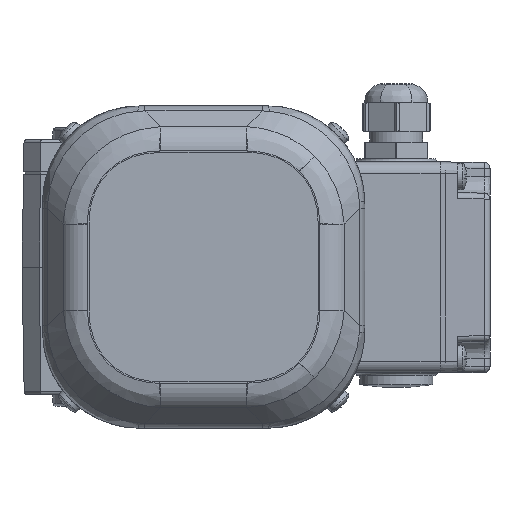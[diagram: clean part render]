
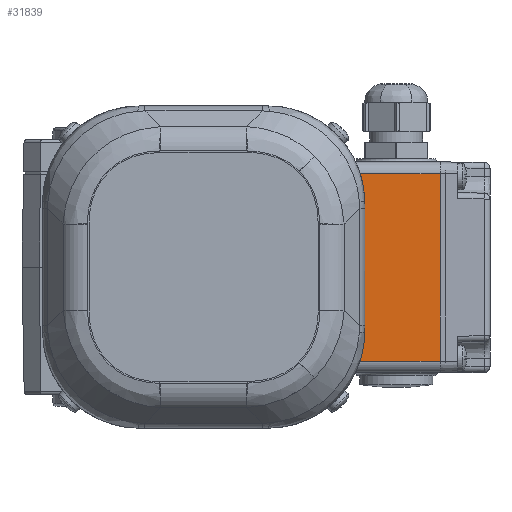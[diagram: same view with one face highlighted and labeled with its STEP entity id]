
A CAD part, left-side view. The second image highlights one B-rep face of the part: STEP entity #31839.
In plain terms, the highlighted planar face has unit normal (-1, 0, 0).
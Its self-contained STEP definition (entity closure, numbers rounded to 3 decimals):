
#93 = CARTESIAN_POINT ( 'NONE',  ( -34., 32., -15. ) ) ;
#3662 = VECTOR ( 'NONE', #31694, 1000. ) ;
#3734 = DIRECTION ( 'NONE',  ( 0., 0., -1. ) ) ;
#4575 = VERTEX_POINT ( 'NONE', #40271 ) ;
#9704 = VECTOR ( 'NONE', #24731, 1000. ) ;
#10824 = EDGE_CURVE ( 'NONE', #19666, #52364, #35744, .T. ) ;
#11523 = LINE ( 'NONE', #27743, #29442 ) ;
#12113 = CARTESIAN_POINT ( 'NONE',  ( -34., 32., 0. ) ) ;
#15455 = FACE_OUTER_BOUND ( 'NONE', #51731, .T. ) ;
#15509 = CARTESIAN_POINT ( 'NONE',  ( -34., 0., -30. ) ) ;
#16902 = VERTEX_POINT ( 'NONE', #40349 ) ;
#19666 = VERTEX_POINT ( 'NONE', #44039 ) ;
#19961 = DIRECTION ( 'NONE',  ( 1., 0., 0. ) ) ;
#23947 = PLANE ( 'NONE',  #28052 ) ;
#24731 = DIRECTION ( 'NONE',  ( 0., 1., 0. ) ) ;
#27733 = LINE ( 'NONE', #15509, #3662 ) ;
#27743 = CARTESIAN_POINT ( 'NONE',  ( -34., -32., -15. ) ) ;
#28052 = AXIS2_PLACEMENT_3D ( 'NONE', #40123, #19961, #3734 ) ;
#29442 = VECTOR ( 'NONE', #43955, 1000. ) ;
#31694 = DIRECTION ( 'NONE',  ( 0., 1., 0. ) ) ;
#31839 = ADVANCED_FACE ( 'NONE', ( #15455 ), #23947, .F. ) ;
#35744 = LINE ( 'NONE', #51956, #9704 ) ;
#36497 = LINE ( 'NONE', #93, #37863 ) ;
#37863 = VECTOR ( 'NONE', #44742, 1000. ) ;
#40123 = CARTESIAN_POINT ( 'NONE',  ( -34., -32., 0. ) ) ;
#40271 = CARTESIAN_POINT ( 'NONE',  ( -34., 32., -30. ) ) ;
#40349 = CARTESIAN_POINT ( 'NONE',  ( -34., -32., -30. ) ) ;
#42210 = EDGE_CURVE ( 'NONE', #4575, #52364, #36497, .T. ) ;
#43332 = EDGE_CURVE ( 'NONE', #16902, #19666, #11523, .T. ) ;
#43404 = ORIENTED_EDGE ( 'NONE', *, *, #42210, .F. ) ;
#43616 = ORIENTED_EDGE ( 'NONE', *, *, #10824, .T. ) ;
#43955 = DIRECTION ( 'NONE',  ( 0., 0., 1. ) ) ;
#44039 = CARTESIAN_POINT ( 'NONE',  ( -34., -32., 0. ) ) ;
#44742 = DIRECTION ( 'NONE',  ( 0., 0., 1. ) ) ;
#47350 = ORIENTED_EDGE ( 'NONE', *, *, #43332, .T. ) ;
#49446 = EDGE_CURVE ( 'NONE', #16902, #4575, #27733, .T. ) ;
#50015 = ORIENTED_EDGE ( 'NONE', *, *, #49446, .F. ) ;
#51731 = EDGE_LOOP ( 'NONE', ( #50015, #47350, #43616, #43404 ) ) ;
#51956 = CARTESIAN_POINT ( 'NONE',  ( -34., 0., 0. ) ) ;
#52364 = VERTEX_POINT ( 'NONE', #12113 ) ;
